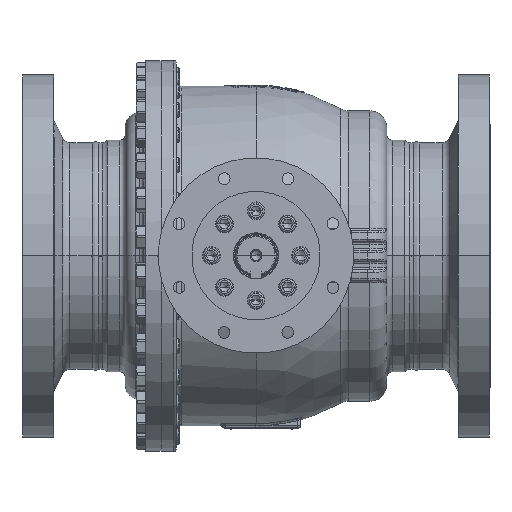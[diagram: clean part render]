
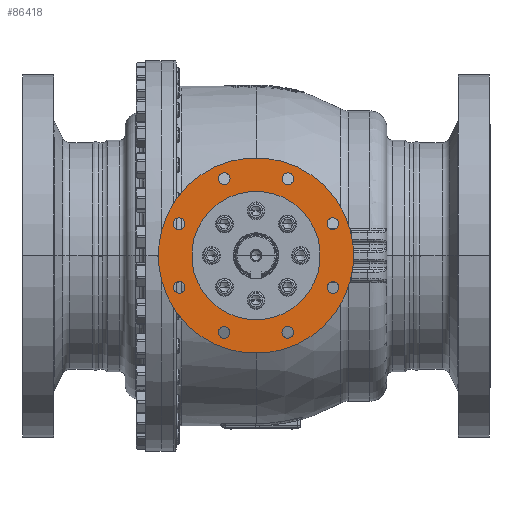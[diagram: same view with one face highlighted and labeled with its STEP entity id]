
A CAD part, top view. The second image highlights one B-rep face of the part: STEP entity #86418.
In plain terms, the highlighted planar face has unit normal (0, 0, 1).
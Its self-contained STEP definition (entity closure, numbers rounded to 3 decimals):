
#8297=CARTESIAN_POINT('',(0.,0.,442.5));
#8298=DIRECTION('',(0.,0.,1.));
#8299=DIRECTION('',(0.707,0.707,0.));
#8300=AXIS2_PLACEMENT_3D('',#8297,#8298,#8299);
#8302=CARTESIAN_POINT('',(0.,0.,442.5));
#8303=DIRECTION('',(0.,0.,-1.));
#8304=DIRECTION('',(0.707,0.707,0.));
#8305=AXIS2_PLACEMENT_3D('',#8302,#8303,#8304);
#8307=CARTESIAN_POINT('',(-137.658,57.02,442.5));
#8308=DIRECTION('',(0.,0.,-1.));
#8309=DIRECTION('',(-0.707,-0.707,0.));
#8310=AXIS2_PLACEMENT_3D('',#8307,#8308,#8309);
#8312=CARTESIAN_POINT('',(-137.658,57.02,442.5));
#8313=DIRECTION('',(0.,0.,-1.));
#8314=DIRECTION('',(0.707,0.707,0.));
#8315=AXIS2_PLACEMENT_3D('',#8312,#8313,#8314);
#8317=CARTESIAN_POINT('',(-57.02,137.658,442.5));
#8318=DIRECTION('',(0.,0.,-1.));
#8319=DIRECTION('',(-1.,0.,0.));
#8320=AXIS2_PLACEMENT_3D('',#8317,#8318,#8319);
#8322=CARTESIAN_POINT('',(-57.02,137.658,442.5));
#8323=DIRECTION('',(0.,0.,-1.));
#8324=DIRECTION('',(1.,0.,0.));
#8325=AXIS2_PLACEMENT_3D('',#8322,#8323,#8324);
#8327=CARTESIAN_POINT('',(57.02,137.658,442.5));
#8328=DIRECTION('',(0.,0.,-1.));
#8329=DIRECTION('',(-0.707,0.707,0.));
#8330=AXIS2_PLACEMENT_3D('',#8327,#8328,#8329);
#8332=CARTESIAN_POINT('',(57.02,137.658,442.5));
#8333=DIRECTION('',(0.,0.,-1.));
#8334=DIRECTION('',(0.707,-0.707,0.));
#8335=AXIS2_PLACEMENT_3D('',#8332,#8333,#8334);
#8337=CARTESIAN_POINT('',(137.658,57.02,442.5));
#8338=DIRECTION('',(0.,0.,-1.));
#8339=DIRECTION('',(0.,1.,0.));
#8340=AXIS2_PLACEMENT_3D('',#8337,#8338,#8339);
#8342=CARTESIAN_POINT('',(137.658,57.02,442.5));
#8343=DIRECTION('',(0.,0.,-1.));
#8344=DIRECTION('',(0.,-1.,0.));
#8345=AXIS2_PLACEMENT_3D('',#8342,#8343,#8344);
#8347=CARTESIAN_POINT('',(137.658,-57.02,442.5));
#8348=DIRECTION('',(0.,0.,-1.));
#8349=DIRECTION('',(0.707,0.707,0.));
#8350=AXIS2_PLACEMENT_3D('',#8347,#8348,#8349);
#8352=CARTESIAN_POINT('',(137.658,-57.02,442.5));
#8353=DIRECTION('',(0.,0.,-1.));
#8354=DIRECTION('',(-0.707,-0.707,0.));
#8355=AXIS2_PLACEMENT_3D('',#8352,#8353,#8354);
#8357=CARTESIAN_POINT('',(57.02,-137.658,442.5));
#8358=DIRECTION('',(0.,0.,-1.));
#8359=DIRECTION('',(1.,0.,0.));
#8360=AXIS2_PLACEMENT_3D('',#8357,#8358,#8359);
#8362=CARTESIAN_POINT('',(57.02,-137.658,442.5));
#8363=DIRECTION('',(0.,0.,-1.));
#8364=DIRECTION('',(-1.,0.,0.));
#8365=AXIS2_PLACEMENT_3D('',#8362,#8363,#8364);
#8367=CARTESIAN_POINT('',(-57.02,-137.658,442.5));
#8368=DIRECTION('',(0.,0.,-1.));
#8369=DIRECTION('',(0.707,-0.707,0.));
#8370=AXIS2_PLACEMENT_3D('',#8367,#8368,#8369);
#8372=CARTESIAN_POINT('',(-57.02,-137.658,442.5));
#8373=DIRECTION('',(0.,0.,-1.));
#8374=DIRECTION('',(-0.707,0.707,0.));
#8375=AXIS2_PLACEMENT_3D('',#8372,#8373,#8374);
#8377=CARTESIAN_POINT('',(-137.658,-57.02,442.5));
#8378=DIRECTION('',(0.,0.,-1.));
#8379=DIRECTION('',(0.,-1.,0.));
#8380=AXIS2_PLACEMENT_3D('',#8377,#8378,#8379);
#8382=CARTESIAN_POINT('',(-137.658,-57.02,442.5));
#8383=DIRECTION('',(0.,0.,-1.));
#8384=DIRECTION('',(0.,1.,0.));
#8385=AXIS2_PLACEMENT_3D('',#8382,#8383,#8384);
#8391=CARTESIAN_POINT('',(0.,0.,442.5));
#8392=DIRECTION('',(0.,0.,-1.));
#8393=DIRECTION('',(0.707,0.707,0.));
#8394=AXIS2_PLACEMENT_3D('',#8391,#8392,#8393);
#8400=CARTESIAN_POINT('',(0.,0.,442.5));
#8401=DIRECTION('',(0.,0.,1.));
#8402=DIRECTION('',(0.707,0.707,0.));
#8403=AXIS2_PLACEMENT_3D('',#8400,#8401,#8402);
#64653=CARTESIAN_POINT('',(81.317,81.317,442.5));
#64655=VERTEX_POINT('',#64653);
#64657=CARTESIAN_POINT('',(-81.317,-81.317,442.5));
#64659=VERTEX_POINT('',#64657);
#64730=CARTESIAN_POINT('',(123.744,123.744,442.5));
#64732=VERTEX_POINT('',#64730);
#64734=CARTESIAN_POINT('',(-123.744,-123.744,442.5));
#64736=VERTEX_POINT('',#64734);
#64809=CARTESIAN_POINT('',(-145.083,49.595,442.5));
#64810=CARTESIAN_POINT('',(-130.233,64.444,442.5));
#64811=VERTEX_POINT('',#64809);
#64812=VERTEX_POINT('',#64810);
#64817=CARTESIAN_POINT('',(-67.52,137.658,442.5));
#64818=CARTESIAN_POINT('',(-46.52,137.658,442.5));
#64819=VERTEX_POINT('',#64817);
#64820=VERTEX_POINT('',#64818);
#64825=CARTESIAN_POINT('',(49.595,145.083,442.5));
#64826=CARTESIAN_POINT('',(64.444,130.233,442.5));
#64827=VERTEX_POINT('',#64825);
#64828=VERTEX_POINT('',#64826);
#64833=CARTESIAN_POINT('',(137.658,67.52,442.5));
#64834=CARTESIAN_POINT('',(137.658,46.52,442.5));
#64835=VERTEX_POINT('',#64833);
#64836=VERTEX_POINT('',#64834);
#64841=CARTESIAN_POINT('',(145.083,-49.595,442.5));
#64842=CARTESIAN_POINT('',(130.233,-64.444,442.5));
#64843=VERTEX_POINT('',#64841);
#64844=VERTEX_POINT('',#64842);
#64849=CARTESIAN_POINT('',(67.52,-137.658,442.5));
#64850=CARTESIAN_POINT('',(46.52,-137.658,442.5));
#64851=VERTEX_POINT('',#64849);
#64852=VERTEX_POINT('',#64850);
#64857=CARTESIAN_POINT('',(-49.595,-145.083,442.5));
#64858=CARTESIAN_POINT('',(-64.444,-130.233,442.5));
#64859=VERTEX_POINT('',#64857);
#64860=VERTEX_POINT('',#64858);
#64865=CARTESIAN_POINT('',(-137.658,-67.52,442.5));
#64866=CARTESIAN_POINT('',(-137.658,-46.52,442.5));
#64867=VERTEX_POINT('',#64865);
#64868=VERTEX_POINT('',#64866);
#86355=CARTESIAN_POINT('',(0.,0.,442.5));
#86356=DIRECTION('',(0.,0.,1.));
#86357=DIRECTION('',(0.707,0.707,0.));
#86358=AXIS2_PLACEMENT_3D('',#86355,#86356,#86357);
#86359=PLANE('',#86358);
#86360=ORIENTED_EDGE('',*,*,#86348,.F.);
#86361=ORIENTED_EDGE('',*,*,#86337,.T.);
#86362=EDGE_LOOP('',(#86360,#86361));
#86363=FACE_OUTER_BOUND('',#86362,.F.);
#86365=ORIENTED_EDGE('',*,*,#86364,.F.);
#86367=ORIENTED_EDGE('',*,*,#86366,.T.);
#86368=EDGE_LOOP('',(#86365,#86367));
#86369=FACE_BOUND('',#86368,.F.);
#86371=ORIENTED_EDGE('',*,*,#86370,.F.);
#86373=ORIENTED_EDGE('',*,*,#86372,.F.);
#86374=EDGE_LOOP('',(#86371,#86373));
#86375=FACE_BOUND('',#86374,.F.);
#86377=ORIENTED_EDGE('',*,*,#86376,.F.);
#86379=ORIENTED_EDGE('',*,*,#86378,.F.);
#86380=EDGE_LOOP('',(#86377,#86379));
#86381=FACE_BOUND('',#86380,.F.);
#86383=ORIENTED_EDGE('',*,*,#86382,.F.);
#86385=ORIENTED_EDGE('',*,*,#86384,.F.);
#86386=EDGE_LOOP('',(#86383,#86385));
#86387=FACE_BOUND('',#86386,.F.);
#86389=ORIENTED_EDGE('',*,*,#86388,.F.);
#86391=ORIENTED_EDGE('',*,*,#86390,.F.);
#86392=EDGE_LOOP('',(#86389,#86391));
#86393=FACE_BOUND('',#86392,.F.);
#86395=ORIENTED_EDGE('',*,*,#86394,.F.);
#86397=ORIENTED_EDGE('',*,*,#86396,.F.);
#86398=EDGE_LOOP('',(#86395,#86397));
#86399=FACE_BOUND('',#86398,.F.);
#86401=ORIENTED_EDGE('',*,*,#86400,.F.);
#86403=ORIENTED_EDGE('',*,*,#86402,.F.);
#86404=EDGE_LOOP('',(#86401,#86403));
#86405=FACE_BOUND('',#86404,.F.);
#86407=ORIENTED_EDGE('',*,*,#86406,.F.);
#86409=ORIENTED_EDGE('',*,*,#86408,.F.);
#86410=EDGE_LOOP('',(#86407,#86409));
#86411=FACE_BOUND('',#86410,.F.);
#86413=ORIENTED_EDGE('',*,*,#86412,.F.);
#86415=ORIENTED_EDGE('',*,*,#86414,.F.);
#86416=EDGE_LOOP('',(#86413,#86415));
#86417=FACE_BOUND('',#86416,.F.);
#86418=ADVANCED_FACE('',(#86363,#86369,#86375,#86381,#86387,#86393,#86399,
#86405,#86411,#86417),#86359,.T.);
#8301=CIRCLE('',#8300,175.);
#8306=CIRCLE('',#8305,175.);
#8311=CIRCLE('',#8310,10.5);
#8316=CIRCLE('',#8315,10.5);
#8321=CIRCLE('',#8320,10.5);
#8326=CIRCLE('',#8325,10.5);
#8331=CIRCLE('',#8330,10.5);
#8336=CIRCLE('',#8335,10.5);
#8341=CIRCLE('',#8340,10.5);
#8346=CIRCLE('',#8345,10.5);
#8351=CIRCLE('',#8350,10.5);
#8356=CIRCLE('',#8355,10.5);
#8361=CIRCLE('',#8360,10.5);
#8366=CIRCLE('',#8365,10.5);
#8371=CIRCLE('',#8370,10.5);
#8376=CIRCLE('',#8375,10.5);
#8381=CIRCLE('',#8380,10.5);
#8386=CIRCLE('',#8385,10.5);
#8395=CIRCLE('',#8394,115.);
#8404=CIRCLE('',#8403,115.);
#86337=EDGE_CURVE('',#64732,#64736,#8306,.T.);
#86348=EDGE_CURVE('',#64732,#64736,#8301,.T.);
#86364=EDGE_CURVE('',#64655,#64659,#8395,.T.);
#86366=EDGE_CURVE('',#64655,#64659,#8404,.T.);
#86370=EDGE_CURVE('',#64811,#64812,#8311,.T.);
#86372=EDGE_CURVE('',#64812,#64811,#8316,.T.);
#86376=EDGE_CURVE('',#64819,#64820,#8321,.T.);
#86378=EDGE_CURVE('',#64820,#64819,#8326,.T.);
#86382=EDGE_CURVE('',#64827,#64828,#8331,.T.);
#86384=EDGE_CURVE('',#64828,#64827,#8336,.T.);
#86388=EDGE_CURVE('',#64835,#64836,#8341,.T.);
#86390=EDGE_CURVE('',#64836,#64835,#8346,.T.);
#86394=EDGE_CURVE('',#64843,#64844,#8351,.T.);
#86396=EDGE_CURVE('',#64844,#64843,#8356,.T.);
#86400=EDGE_CURVE('',#64851,#64852,#8361,.T.);
#86402=EDGE_CURVE('',#64852,#64851,#8366,.T.);
#86406=EDGE_CURVE('',#64859,#64860,#8371,.T.);
#86408=EDGE_CURVE('',#64860,#64859,#8376,.T.);
#86412=EDGE_CURVE('',#64867,#64868,#8381,.T.);
#86414=EDGE_CURVE('',#64868,#64867,#8386,.T.);
